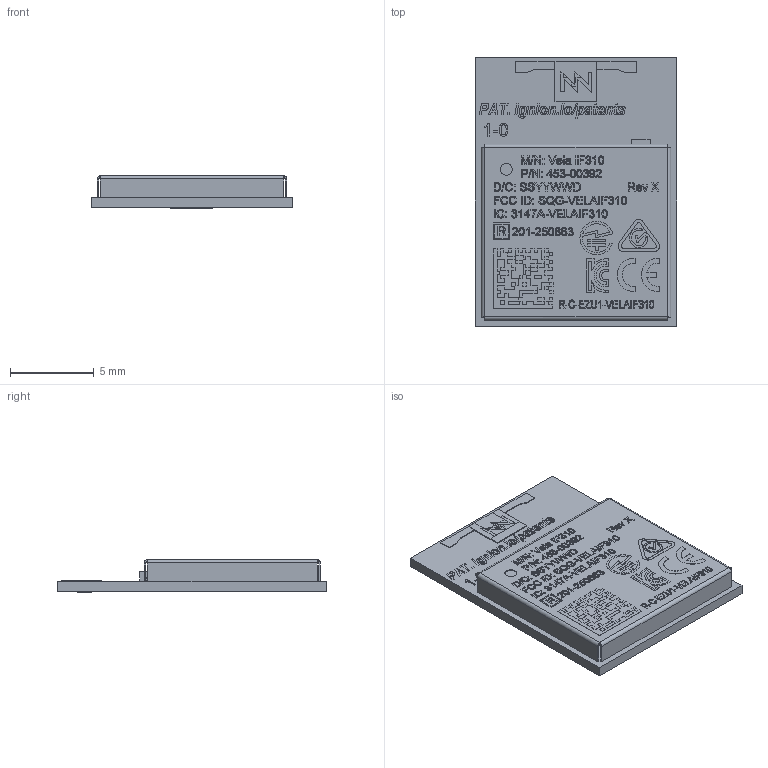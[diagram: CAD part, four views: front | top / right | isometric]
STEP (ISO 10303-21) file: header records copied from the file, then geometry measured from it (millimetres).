
FILE_DESCRIPTION (( 'STEP AP214' ), '1' );
FILE_NAME ('453-00392.STEP', '2026-05-25T08:53:43', ( '' ), ( '' ), 'SwSTEP 2.0', 'SolidWorks 2025', '' );
FILE_SCHEMA (( 'AUTOMOTIVE_DESIGN' ));
Length unit declared in the file: millimetre
Products named in the file (4): 453-00392; 940-00389_laser; 750-00054_940-00389, ST; 110-00031_453-00392
Assembly tree (3 placements, depth 3):
  453-00392
    940-00389_laser
      750-00054_940-00389, ST
      110-00031_453-00392
Bounding box: 12 x 16 x 1.95 mm (x, y, z)
Volume: 148.3 mm3; surface area: 938.7 mm2
Topology: 237 solids, 237 shells, 4283 faces, 10366 edges, 6663 vertices
Faces by surface type: plane 2938, bspline 794, cylinder 423, sphere 128
Entity records: 207079 total; most frequent: CARTESIAN_POINT 63994, ORIENTED_EDGE 20476, DIRECTION 16436, EDGE_CURVE 10238, LINE 7760, VECTOR 7760, VERTEX_POINT 6663, EDGE_LOOP 4521
